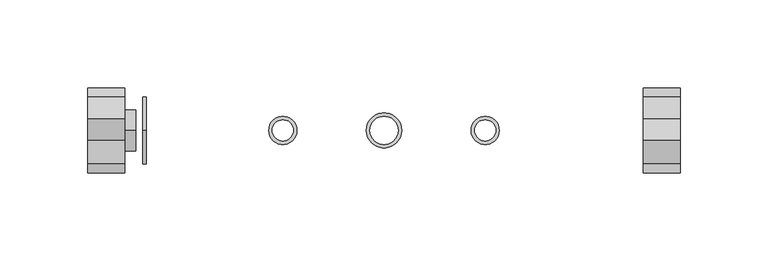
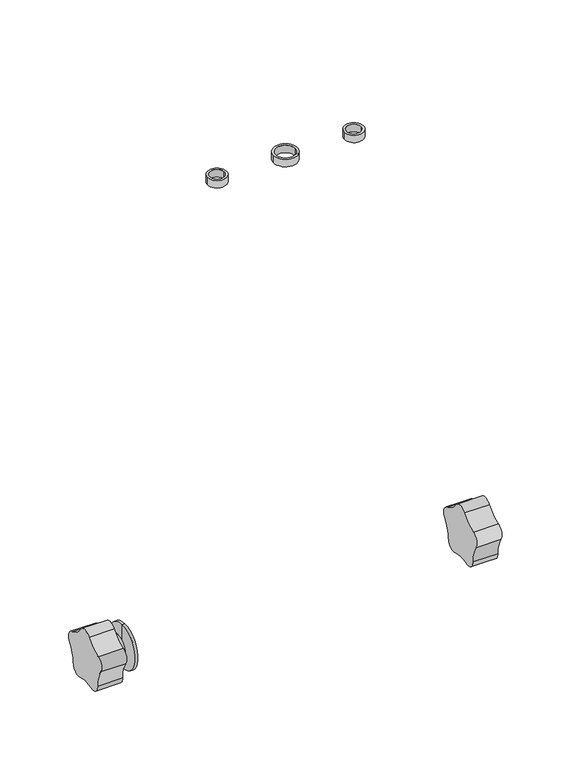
"""IFC4 building model written with IfcOpenShell, lengths in millimetres: proxy geometry, d&b U-Series U7 Swivel Bracket : d&b U-Series U7 Swivel Bracket."""

import ifcopenshell
import ifcopenshell.guid

model = None  # the IFC model being written
_history = None  # IfcOwnerHistory: only IFC2X3 demands one
_inside = {}  # id of a spatial element -> (the spatial element, [elements in it])
_under = {}  # id of a project, library or spatial element -> (it, [spatial elements below it])
_declared = {}  # id of a project -> (the project, [libraries it declares])
_typed = {}  # id of a type object -> (the type object, [elements of that type])
_made_of = {}  # id of a material, layer set ... -> (it, [elements and type objects made of it])


def new_model(schema):
    """Start an empty IFC model of exactly this schema.

    Asked for "IFC4X3", IfcOpenShell would pick the latest addendum, in which some entities
    have other attributes; the version numbers below select the first issue.
    IFC2X3 requires an IfcOwnerHistory on every rooted entity: one is made here for all.
    """
    global model, _history
    if schema == "IFC4X3":
        model = ifcopenshell.file(schema_version=(4, 3, 0, 0))
    else:
        model = ifcopenshell.file(schema=schema)
    _inside.clear()
    _under.clear()
    _declared.clear()
    _typed.clear()
    _made_of.clear()
    _history = None
    if model.schema == "IFC2X3":
        org = make("IfcOrganization", Name="unknown")
        user = make(
            "IfcPersonAndOrganization",
            ThePerson=make("IfcPerson", FamilyName="unknown"),
            TheOrganization=org,
        )
        app = make(
            "IfcApplication",
            ApplicationDeveloper=org,
            Version="unknown",
            ApplicationFullName="unknown",
            ApplicationIdentifier="unknown",
        )
        _history = make(
            "IfcOwnerHistory",
            OwningUser=user,
            OwningApplication=app,
            ChangeAction="ADDED",
            CreationDate=0,
        )
    return model


def make(cls, **values):
    """One entity of the class cls with the attributes given. An attribute that is None is left unset."""
    return model.create_entity(
        cls, **{name: value for name, value in values.items() if value is not None}
    )


def rooted(cls, **values):
    """An entity with a GlobalId (a new one), such as an element, a storey or a relation."""
    return make(cls, GlobalId=ifcopenshell.guid.new(), OwnerHistory=_history, **values)


def si_unit(unit_type, name, prefix=None):
    """IfcSIUnit, for example si_unit("LENGTHUNIT", "METRE", prefix="MILLI")."""
    return make("IfcSIUnit", UnitType=unit_type, Prefix=prefix, Name=name)


def assignment(units):
    """IfcUnitAssignment: the units of a project."""
    return None if units is None else make("IfcUnitAssignment", Units=units)


def point(xyz):
    """IfcCartesianPoint."""
    return None if xyz is None else make("IfcCartesianPoint", Coordinates=xyz)


def direction(xyz):
    """IfcDirection."""
    return None if xyz is None else make("IfcDirection", DirectionRatios=xyz)


def frame(location, z_axis=None, x_axis=None):
    """IfcAxis2Placement3D, a coordinate frame: its origin and axes. An axis left out is left unset."""
    return make(
        "IfcAxis2Placement3D",
        Location=point(location),
        Axis=direction(z_axis),
        RefDirection=direction(x_axis),
    )


def frame_2d(location, x_axis=None):
    """IfcAxis2Placement2D, a coordinate frame in the plane: its origin and x axis."""
    return make(
        "IfcAxis2Placement2D", Location=point(location), RefDirection=direction(x_axis)
    )


def origin():
    """The frame at (0, 0, 0) with its axes left unset."""
    return frame((0.0, 0.0, 0.0))


def origin_2d():
    """The frame at (0, 0) in the plane with its x axis left unset."""
    return frame_2d((0.0, 0.0))


def place(relative_to, where):
    """IfcLocalPlacement: puts the frame where relative to a parent placement (None: the world)."""
    return make(
        "IfcLocalPlacement", PlacementRelTo=relative_to, RelativePlacement=where
    )


def context(
    kind, dimensions, precision=None, world=None, true_north=None, identifier=None
):
    """IfcGeometricRepresentationContext, for example the 3D "Model" context."""
    return make(
        "IfcGeometricRepresentationContext",
        ContextIdentifier=identifier,
        ContextType=kind,
        CoordinateSpaceDimension=dimensions,
        Precision=precision,
        WorldCoordinateSystem=world,
        TrueNorth=true_north,
    )


def project(units=None, contexts=None):
    """IfcProject with its units and contexts."""
    return rooted(
        "IfcProject",
        Name="project",
        RepresentationContexts=contexts,
        UnitsInContext=assignment(units),
    )


def spatial(cls, under=None, at=None, **own):
    """A site, building, storey or space (cls), placed at a placement, below another one or the project."""
    s = rooted(cls, ObjectPlacement=at, **own)
    if under is not None:
        _under.setdefault(under.id(), (under, []))[1].append(s)
    return s


def circle_curve(where, radius):
    """IfcCircle in the frame where."""
    return make("IfcCircle", Position=where, Radius=radius)


def trimmed(basis, trim1, trim2, sense, master):
    """IfcTrimmedCurve: the piece of a basis curve between two trims."""
    return make(
        "IfcTrimmedCurve",
        BasisCurve=basis,
        Trim1=trim1,
        Trim2=trim2,
        SenseAgreement=sense,
        MasterRepresentation=master,
    )


def segment(curve, same_sense, transition):
    """IfcCompositeCurveSegment."""
    return make(
        "IfcCompositeCurveSegment",
        Transition=transition,
        SameSense=same_sense,
        ParentCurve=curve,
    )


def composite_curve(segments, self_intersect=None):
    """IfcCompositeCurve: segments joined end to end."""
    return make("IfcCompositeCurve", Segments=segments, SelfIntersect=self_intersect)


def outline(outer, holes=None, kind="AREA"):
    """IfcArbitraryClosedProfileDef: a profile drawn as a closed curve; with holes, ...WithVoids."""
    if holes is None:
        return make("IfcArbitraryClosedProfileDef", ProfileType=kind, OuterCurve=outer)
    return make(
        "IfcArbitraryProfileDefWithVoids",
        ProfileType=kind,
        OuterCurve=outer,
        InnerCurves=holes,
    )


def extrude(swept, where, along, depth):
    """IfcExtrudedAreaSolid: the profile swept, set in the frame where, extruded along a direction by depth."""
    return make(
        "IfcExtrudedAreaSolid",
        SweptArea=swept,
        Position=where,
        ExtrudedDirection=direction(along),
        Depth=depth,
    )


def shape(context_of_items, identifier, shape_type, items):
    """IfcShapeRepresentation: the items that make up one representation, for example the "Body"."""
    return make(
        "IfcShapeRepresentation",
        ContextOfItems=context_of_items,
        RepresentationIdentifier=identifier,
        RepresentationType=shape_type,
        Items=items,
    )


def source(mapping_origin, context_of_items, identifier, shape_type, items):
    """IfcRepresentationMap: a shape defined once, which mapped items show again and again."""
    return make(
        "IfcRepresentationMap",
        MappingOrigin=mapping_origin,
        MappedRepresentation=shape(context_of_items, identifier, shape_type, items),
    )


def transform(
    local_origin,
    x_axis=None,
    y_axis=None,
    z_axis=None,
    scale=None,
    scale2=None,
    scale3=None,
    uniform=True,
):
    """IfcCartesianTransformationOperator3D, or its non-uniform kind. x_axis, y_axis, z_axis: its Axis1, 2, 3."""
    if uniform:
        return make(
            "IfcCartesianTransformationOperator3D",
            Axis1=direction(x_axis),
            Axis2=direction(y_axis),
            LocalOrigin=point(local_origin),
            Scale=scale,
            Axis3=direction(z_axis),
        )
    return make(
        "IfcCartesianTransformationOperator3DnonUniform",
        Axis1=direction(x_axis),
        Axis2=direction(y_axis),
        LocalOrigin=point(local_origin),
        Scale=scale,
        Axis3=direction(z_axis),
        Scale2=scale2,
        Scale3=scale3,
    )


def mapped(mapping_source, mapping_target):
    """IfcMappedItem: shows the shape of a source again, moved by a transform."""
    return make(
        "IfcMappedItem", MappingSource=mapping_source, MappingTarget=mapping_target
    )


def made_of(thing, what):
    """Note that an element or type object is made of a material, layer set ...; save() writes the relation."""
    if what is not None:
        _made_of.setdefault(what.id(), (what, []))[1].append(thing)
    return thing


def element(
    cls,
    number,
    at=None,
    inside=None,
    cuts=None,
    type_object=None,
    material=None,
    context=None,
    identifier="Body",
    shape_type=None,
    held_by="IfcProductDefinitionShape",
    body=None,
    shapes=None,
    **own,
):
    """One element of the class cls, such as IfcWall. Its Tag is "e" and its number.

    at: its placement. inside: the storey or other place that contains it. cuts: it is an
    opening in that element (IfcRelVoidsElement). A single representation is given by context,
    identifier, shape_type and body (its items); several are given by shapes. held_by: the class
    of the entity that holds the representations. save() writes the other relations.
    """
    e = rooted(cls, Tag="e%d" % number, ObjectPlacement=at, **own)
    if body is not None:
        shapes = [shape(context, identifier, shape_type, body)]
    if shapes is not None:
        e.Representation = make(held_by, Representations=shapes)
    if inside is not None:
        _inside.setdefault(inside.id(), (inside, []))[1].append(e)
    if cuts is not None:
        rooted(
            "IfcRelVoidsElement", RelatingBuildingElement=cuts, RelatedOpeningElement=e
        )
    if type_object is not None:
        _typed.setdefault(type_object.id(), (type_object, []))[1].append(e)
    return made_of(e, material)


def aggregate(whole, parts):
    """IfcRelAggregates: a whole, such as a stair, and the parts it consists of."""
    return rooted("IfcRelAggregates", RelatingObject=whole, RelatedObjects=parts)


def save(model, path):
    """Write the relations noted so far, then the file.

    IfcRelAggregates (storeys below a building ...), IfcRelContainedInSpatialStructure (elements
    in a storey), IfcRelDefinesByType, IfcRelAssociatesMaterial and IfcRelDeclares: one each for
    every whole, place, type object, material and project.
    """
    for whole, parts in _under.values():
        aggregate(whole, parts)
    for where, things in _inside.values():
        rooted(
            "IfcRelContainedInSpatialStructure",
            RelatedElements=things,
            RelatingStructure=where,
        )
    for kind, things in _typed.values():
        rooted("IfcRelDefinesByType", RelatedObjects=things, RelatingType=kind)
    for what, things in _made_of.values():
        rooted("IfcRelAssociatesMaterial", RelatedObjects=things, RelatingMaterial=what)
    for by, libraries in _declared.values():
        rooted("IfcRelDeclares", RelatingContext=by, RelatedDefinitions=libraries)
    model.write(path)


def plane_surface(at):
    """IfcPlane: the flat surface through the origin of the frame at, square to its z axis."""
    return make("IfcPlane", Position=at)


def cylinder_surface(at, radius):
    """IfcCylindricalSurface: all points at the distance radius from the z axis of the frame at."""
    return make("IfcCylindricalSurface", Position=at, Radius=radius)


def advanced_brep(points, edges, surfaces, faces):
    """IfcAdvancedBrep: a solid bounded by faces that lie on surfaces and meet in shared edges.

    An edge is (start, end): straight between two places in points (the first is 0);
    or (start, end, curve); or (start, end, curve, False) where it runs against its curve.
    A face is (place in surfaces, loops), or (place, loops, False) where it looks against
    its surface's normal. A loop lists edges by number (the first is 1), with a minus sign
    where the edge is run from its end to its start. The first loop is the outer one.
    """
    corners = [point(p) for p in points]
    vertices = [make("IfcVertexPoint", VertexGeometry=c) for c in corners]
    made = []
    for start, end, *more in edges:
        made.append(
            make(
                "IfcEdgeCurve",
                EdgeStart=vertices[start],
                EdgeEnd=vertices[end],
                EdgeGeometry=more[0] if more else make("IfcPolyline", Points=[corners[start], corners[end]]),
                SameSense=more[1] if len(more) > 1 else True,
            )
        )
    hull = []
    for where, loops, *sense in faces:
        bounds = []
        for j, loop in enumerate(loops):
            ring = [make("IfcOrientedEdge", EdgeElement=made[abs(k) - 1], Orientation=k > 0) for k in loop]
            bounds.append(
                make(
                    "IfcFaceOuterBound" if j == 0 else "IfcFaceBound",
                    Bound=make("IfcEdgeLoop", EdgeList=ring),
                    Orientation=True,
                )
            )
        hull.append(make("IfcAdvancedFace", Bounds=bounds, FaceSurface=surfaces[where], SameSense=sense[0] if sense else True))
    return make("IfcAdvancedBrep", Outer=make("IfcClosedShell", CfsFaces=hull))


def communication_devices_76a7964f(model_context):
    return source(origin(), model_context, "Body", "SolidModel", [
        extrude(outline(composite_curve([segment(trimmed(circle_curve(origin_2d(), 10.0), [point((10.0, 0.0))], [point((-10.0, 0.0))], False, "CARTESIAN"), True, "CONTINUOUS"), segment(trimmed(circle_curve(origin_2d(), 10.0), [point((-10.0, 0.0))], [point((10.0, 0.0))], False, "CARTESIAN"), True, "CONTINUOUS")], self_intersect=False), holes=[composite_curve([segment(trimmed(circle_curve(origin_2d(), 8.0), [point((8.0, 0.0))], [point((-8.0, 0.0))], True, "CARTESIAN"), True, "CONTINUOUS"), segment(trimmed(circle_curve(origin_2d(), 8.0), [point((-8.0, 0.0))], [point((8.0, 0.0))], True, "CARTESIAN"), True, "CONTINUOUS")], self_intersect=False)]), frame((0.0, 0.0, 384.5), z_axis=(0.0, 0.0, 1.0), x_axis=(1.0, 0.0, 0.0)), (0.0, 0.0, 1.0), 6.5),
        extrude(outline(composite_curve([segment(trimmed(circle_curve(frame_2d((-57.5, 0.0)), 8.0), [point((-49.5, 0.0))], [point((-65.5, 0.0))], False, "CARTESIAN"), True, "CONTINUOUS"), segment(trimmed(circle_curve(frame_2d((-57.5, 0.0)), 8.0), [point((-65.5, 0.0))], [point((-49.5, 0.0))], False, "CARTESIAN"), True, "CONTINUOUS")], self_intersect=False), holes=[composite_curve([segment(trimmed(circle_curve(frame_2d((-57.5, 0.0)), 6.0), [point((-51.5, 0.0))], [point((-63.5, 0.0))], True, "CARTESIAN"), True, "CONTINUOUS"), segment(trimmed(circle_curve(frame_2d((-57.5, 0.0)), 6.0), [point((-63.5, 0.0))], [point((-51.5, 0.0))], True, "CARTESIAN"), True, "CONTINUOUS")], self_intersect=False)]), frame((0.0, 0.0, 384.5), z_axis=(0.0, 0.0, 1.0), x_axis=(1.0, 0.0, 0.0)), (0.0, 0.0, 1.0), 6.5),
        extrude(outline(composite_curve([segment(trimmed(circle_curve(frame_2d((57.5, 0.0)), 8.0), [point((65.5, 0.0))], [point((49.5, 0.0))], False, "CARTESIAN"), True, "CONTINUOUS"), segment(trimmed(circle_curve(frame_2d((57.5, 0.0)), 8.0), [point((49.5, 0.0))], [point((65.5, 0.0))], False, "CARTESIAN"), True, "CONTINUOUS")], self_intersect=False), holes=[composite_curve([segment(trimmed(circle_curve(frame_2d((57.5, 0.0)), 6.0), [point((63.5, 0.0))], [point((51.5, 0.0))], True, "CARTESIAN"), True, "CONTINUOUS"), segment(trimmed(circle_curve(frame_2d((57.5, 0.0)), 6.0), [point((51.5, 0.0))], [point((63.5, 0.0))], True, "CARTESIAN"), True, "CONTINUOUS")], self_intersect=False)]), frame((0.0, 0.0, 384.5), z_axis=(0.0, 0.0, 1.0), x_axis=(1.0, 0.0, 0.0)), (0.0, 0.0, 1.0), 6.5),
        extrude(outline(composite_curve([segment(trimmed(circle_curve(frame_2d((27.151281, 35.7782371)), 25.0), [point((6.4330521, 21.7869901))], [point((19.2519239, 12.0590433))], True, "CARTESIAN"), True, "CONTINUOUS"), segment(trimmed(circle_curve(frame_2d((16.9397501, 5.1163393)), 7.3176011), [point((19.2519239, 12.0590433))], [point((22.7085813, 0.614354))], False, "CARTESIAN"), True, "CONTINUOUS"), segment(trimmed(circle_curve(frame_2d((42.4173328, -14.7663194)), 25.0), [point((22.7085813, 0.614354))], [point((17.4180033, -14.5832183))], True, "CARTESIAN"), True, "CONTINUOUS"), segment(trimmed(circle_curve(frame_2d((10.1005985, -14.5296239)), 7.3176011), [point((17.4180033, -14.5832183))], [point((7.601623, -21.4072984))], False, "CARTESIAN"), True, "CONTINUOUS"), segment(trimmed(circle_curve(frame_2d((-0.9359276, -44.9043244)), 25.0), [point((7.601623, -21.4072984))], [point((-8.4870058, -21.0719679))], True, "CARTESIAN"), True, "CONTINUOUS"), segment(trimmed(circle_curve(frame_2d((-10.6972369, -14.0961408)), 7.3176011), [point((-8.4870058, -21.0719679))], [point((-18.01052, -13.8447921))], False, "CARTESIAN"), True, "CONTINUOUS"), segment(trimmed(circle_curve(frame_2d((-42.9957679, -12.9860793)), 25.0), [point((-18.01052, -13.8447921))], [point((-22.6632614, 1.560026))], True, "CARTESIAN"), True, "CONTINUOUS"), segment(trimmed(circle_curve(frame_2d((-16.7118545, 5.8177298)), 7.3176011), [point((-22.6632614, 1.560026))], [point((-18.7327365, 12.8507464))], False, "CARTESIAN"), True, "CONTINUOUS"), segment(trimmed(circle_curve(frame_2d((-25.6369183, 36.878486)), 25.0), [point((-18.7327365, 12.8507464))], [point((-5.51966, 22.036117))], True, "CARTESIAN"), True, "CONTINUOUS"), segment(trimmed(circle_curve(frame_2d((0.3687428, 17.6916955)), 7.3176011), [point((-5.51966, 22.036117))], [point((6.4330521, 21.7869901))], False, "CARTESIAN"), True, "CONTINUOUS")], self_intersect=False)), frame((147.2, 0.0, 0.0), z_axis=(1.0, 0.0, 0.0), x_axis=(0.0, 1.0, 0.0)), (0.0, 0.0, 1.0), 20.9929542),
        extrude(outline(composite_curve([segment(trimmed(circle_curve(frame_2d((27.151281, 35.7782371)), 25.0), [point((6.4330521, 21.7869901))], [point((19.2519239, 12.0590433))], True, "CARTESIAN"), True, "CONTINUOUS"), segment(trimmed(circle_curve(frame_2d((16.9397501, 5.1163393)), 7.3176011), [point((19.2519239, 12.0590433))], [point((22.7085813, 0.614354))], False, "CARTESIAN"), True, "CONTINUOUS"), segment(trimmed(circle_curve(frame_2d((42.4173328, -14.7663194)), 25.0), [point((22.7085813, 0.614354))], [point((17.4180033, -14.5832183))], True, "CARTESIAN"), True, "CONTINUOUS"), segment(trimmed(circle_curve(frame_2d((10.1005985, -14.5296239)), 7.3176011), [point((17.4180033, -14.5832183))], [point((7.601623, -21.4072984))], False, "CARTESIAN"), True, "CONTINUOUS"), segment(trimmed(circle_curve(frame_2d((-0.9359276, -44.9043244)), 25.0), [point((7.601623, -21.4072984))], [point((-8.4870058, -21.0719679))], True, "CARTESIAN"), True, "CONTINUOUS"), segment(trimmed(circle_curve(frame_2d((-10.6972369, -14.0961408)), 7.3176011), [point((-8.4870058, -21.0719679))], [point((-18.01052, -13.8447921))], False, "CARTESIAN"), True, "CONTINUOUS"), segment(trimmed(circle_curve(frame_2d((-42.9957679, -12.9860793)), 25.0), [point((-18.01052, -13.8447921))], [point((-22.6632614, 1.560026))], True, "CARTESIAN"), True, "CONTINUOUS"), segment(trimmed(circle_curve(frame_2d((-16.7118545, 5.8177298)), 7.3176011), [point((-22.6632614, 1.560026))], [point((-18.7327365, 12.8507464))], False, "CARTESIAN"), True, "CONTINUOUS"), segment(trimmed(circle_curve(frame_2d((-25.6369183, 36.878486)), 25.0), [point((-18.7327365, 12.8507464))], [point((-5.51966, 22.036117))], True, "CARTESIAN"), True, "CONTINUOUS"), segment(trimmed(circle_curve(frame_2d((0.3687428, 17.6916955)), 7.3176011), [point((-5.51966, 22.036117))], [point((6.4330521, 21.7869901))], False, "CARTESIAN"), True, "CONTINUOUS")], self_intersect=False)), frame((-168.1929542, 0.0, 0.0), z_axis=(1.0, 0.0, 0.0), x_axis=(0.0, 1.0, 0.0)), (0.0, 0.0, 1.0), 20.9929542),
        advanced_brep(
        [(-147.2, 0.0, 0.0), (-147.2, 0.0, -11.75), (-147.2, 0.0, 11.75), (-141.0, 0.0, -11.75), (-141.0, 0.0, 0.0), (-141.0, 0.0, 11.75)],
        [
            (0, 1),
            (1, 2, circle_curve(frame((-147.2, 0.0, 0.0), z_axis=(-1.0, 0.0, 0.0), x_axis=(0.0, 0.0, 1.0)), 11.75)),
            (2, 0),
            (2, 1, circle_curve(frame((-147.2, 0.0, 0.0), z_axis=(-1.0, 0.0, 0.0), x_axis=(0.0, 0.0, 1.0)), 11.75)),
            (3, 4),
            (4, 5),
            (5, 3, circle_curve(frame((-141.0, 0.0, 0.0), z_axis=(1.0, 0.0, 0.0), x_axis=(0.0, 0.0, 1.0)), 11.75)),
            (3, 5, circle_curve(frame((-141.0, 0.0, 0.0), z_axis=(1.0, 0.0, 0.0), x_axis=(0.0, 0.0, 1.0)), 11.75)),
            (1, 3),
            (5, 2),
        ],
        [
            plane_surface(frame((-147.2, 0.0, 0.0), z_axis=(-1.0, 0.0, 0.0), x_axis=(0.0, 0.0, 1.0))),
            plane_surface(frame((-141.0, 0.0, 0.0), z_axis=(1.0, 0.0, 0.0), x_axis=(0.0, 0.0, 1.0))),
            cylinder_surface(frame((-130.2, 0.0, 0.0), z_axis=(-1.0, 0.0, 0.0), x_axis=(0.0, 0.0, 1.0)), 11.75),
        ],
        [
            (0, [[1, 2, 3]]),
            (0, [[-3, 4, -1]]),
            (1, [[5, 6, 7]]),
            (1, [[-6, -5, 8]]),
            (2, [[9, -7, 10, -2]]),
            (2, [[-10, -8, -9, -4]]),
        ],
    ),
        advanced_brep(
        [(-137.0744152, 0.0, -19.0085486), (-135.0030853, 0.0, -19.0085486), (-135.0030853, 0.0, 19.0085486), (-137.0744152, 0.0, 19.0085486), (-137.0744152, 0.0, 0.0), (-135.0030853, 0.0, 0.0)],
        [
            (0, 1),
            (1, 2, circle_curve(frame((-135.0030853, 0.0, 0.0), z_axis=(-1.0, 0.0, 0.0), x_axis=(0.0, 0.0, 1.0)), 19.0085486)),
            (2, 3),
            (3, 0, circle_curve(frame((-137.0744152, 0.0, 0.0), z_axis=(1.0, 0.0, 0.0), x_axis=(0.0, 0.0, 1.0)), 19.0085486)),
            (2, 1, circle_curve(frame((-135.0030853, 0.0, 0.0), z_axis=(-1.0, 0.0, 0.0), x_axis=(0.0, 0.0, 1.0)), 19.0085486)),
            (0, 3, circle_curve(frame((-137.0744152, 0.0, 0.0), z_axis=(1.0, 0.0, 0.0), x_axis=(0.0, 0.0, 1.0)), 19.0085486)),
            (4, 0),
            (3, 4),
            (1, 5),
            (5, 2),
        ],
        [
            cylinder_surface(frame((-130.2, 0.0, 0.0), z_axis=(-1.0, 0.0, 0.0), x_axis=(0.0, 0.0, 1.0)), 19.0085486),
            plane_surface(frame((-137.0744152, 0.0, 0.0), z_axis=(-1.0, 0.0, 0.0), x_axis=(0.0, 0.0, 1.0))),
            plane_surface(frame((-135.0030853, 0.0, 0.0), z_axis=(1.0, 0.0, 0.0), x_axis=(0.0, 0.0, 1.0))),
        ],
        [
            (0, [[1, 2, 3, 4]]),
            (0, [[-3, 5, -1, 6]]),
            (1, [[7, -4, 8]]),
            (1, [[-8, -6, -7]]),
            (2, [[9, 10, -2]]),
            (2, [[-10, -9, -5]]),
        ],
    ),
    ])


if __name__ == "__main__":
    model = new_model("IFC4")
    model_context = context("Model", 3, world=origin())
    ifc_project = project(units=[si_unit("LENGTHUNIT", "METRE", prefix="MILLI")], contexts=[model_context])
    site = spatial("IfcSite", under=ifc_project)
    building = spatial("IfcBuilding", under=site)
    placement = place(None, origin())
    communication_devices_shape = communication_devices_76a7964f(model_context)
    element("IfcBuildingElementProxy", 1, Name="d&b U-Series U7 Swivel Bracket : d&b U-Series U7 Swivel Bracket", ObjectType="d&b U-Series U7 Swivel Bracket : d&b U-Series U7 Swivel Bracket", at=placement, inside=building, context=model_context, shape_type="MappedRepresentation", body=[
        mapped(communication_devices_shape, transform((0.0, 0.0, 0.0), x_axis=(1.0, 0.0, 0.0), y_axis=(0.0, 1.0, 0.0), z_axis=(0.0, 0.0, 1.0))),
    ])
    save(model, "model.ifc")
